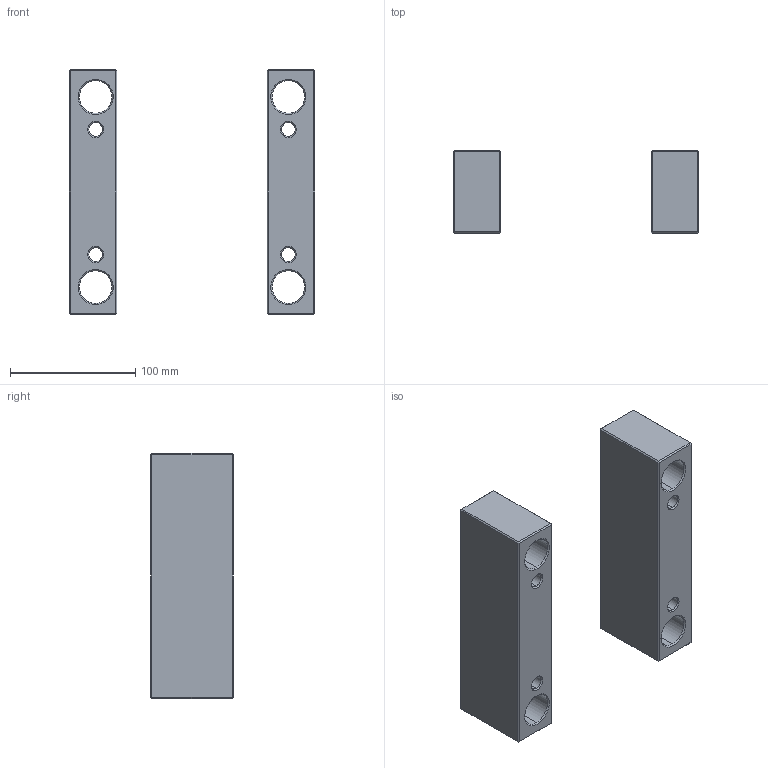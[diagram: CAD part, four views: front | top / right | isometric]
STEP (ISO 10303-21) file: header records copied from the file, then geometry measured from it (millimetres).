
FILE_DESCRIPTION (( 'STEP AP214' ), '1' );
FILE_NAME ('ESP-EU-196X196x66.STEP', '2020-04-15T16:46:27', ( 'August' ), ( '' ), 'SwSTEP 2.0', 'SolidWorks 2018', '' );
FILE_SCHEMA (( 'AUTOMOTIVE_DESIGN' ));
Length unit declared in the file: millimetre
Products named in the file (1): ESP-EU-196X196x66
Bounding box: 196 x 66 x 196 mm (x, y, z)
Volume: 816210.9 mm3; surface area: 115311.6 mm2
Topology: 2 solids, 2 shells, 100 faces, 208 edges, 112 vertices
Faces by surface type: plane 52, cone 32, cylinder 16
Entity records: 2631 total; most frequent: DIRECTION 474, CARTESIAN_POINT 421, ORIENTED_EDGE 416, EDGE_CURVE 208, AXIS2_PLACEMENT_3D 165, VECTOR 144, LINE 144, EDGE_LOOP 116
